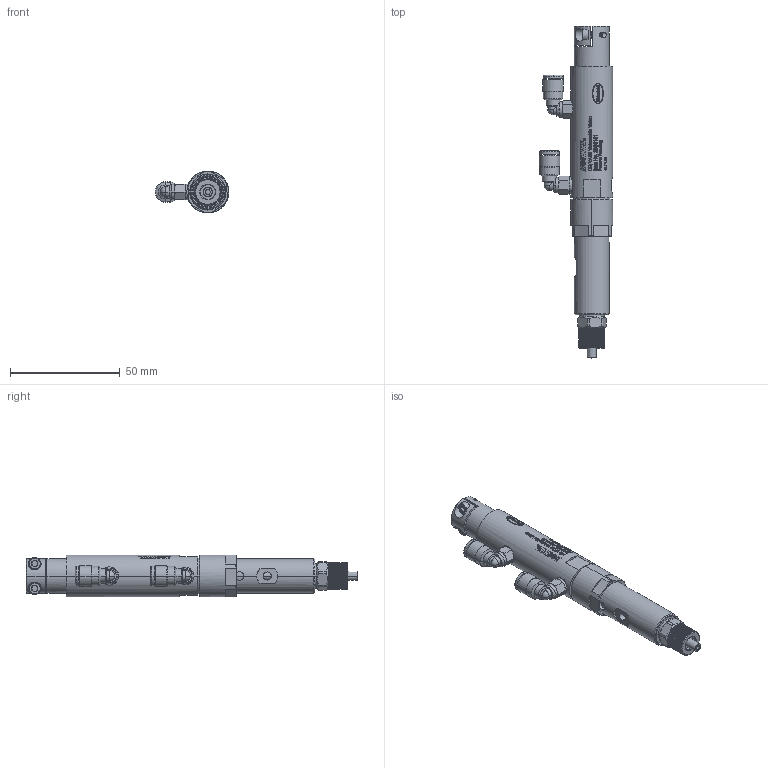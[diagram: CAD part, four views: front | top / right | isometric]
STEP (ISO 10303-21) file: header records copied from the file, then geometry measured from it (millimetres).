
FILE_DESCRIPTION (( 'STEP AP203' ), '1' );
FILE_NAME ('2084141 EQ VA20 Volumetric Valve Assembly.stp', '2016-11-02T14:08:24', ( '' ), ( '' ), 'SwSTEP 2.0', 'SolidWorks 2016', '' );
FILE_SCHEMA (( 'CONFIG_CONTROL_DESIGN' ));
Products named in the file (1): 2084141 EQ VA20 Volumetric Valve Assembly
Bounding box: 33.44 x 151.11 x 19.05 mm (x, y, z)
Volume: 35980.8 mm3; surface area: 17097.3 mm2
Topology: 13 solids, 13 shells, 2317 faces, 6371 edges, 4209 vertices
Faces by surface type: bspline 1021, plane 721, cylinder 421, cone 138, torus 12, sphere 4
Entity records: 113867 total; most frequent: CARTESIAN_POINT 62588, ORIENTED_EDGE 12730, DIRECTION 7173, EDGE_CURVE 6365, VERTEX_POINT 4209, LINE 2781, VECTOR 2781, B_SPLINE_CURVE_WITH_KNOTS 2472
